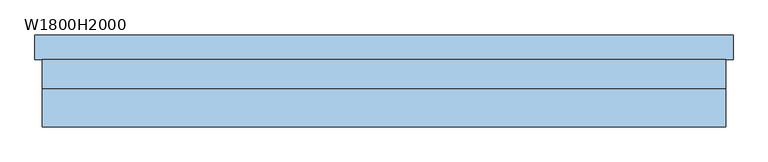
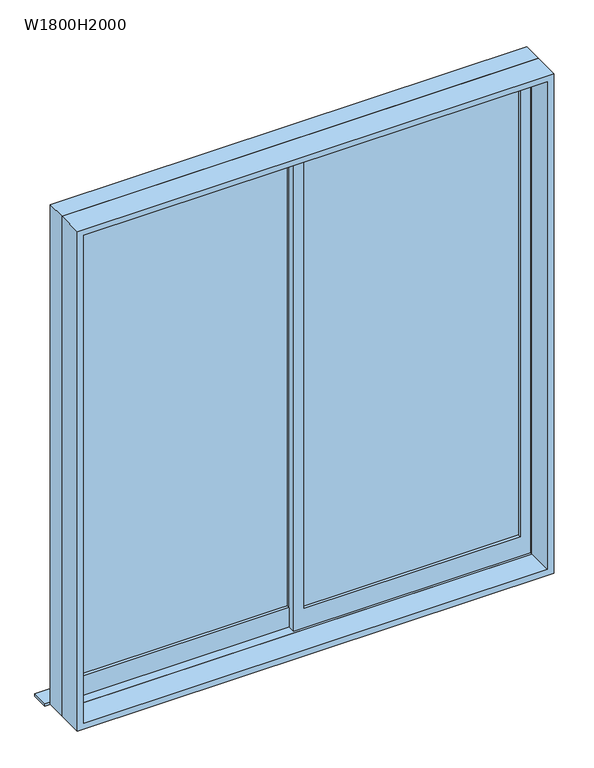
"""IFC4 building model written with IfcOpenShell, lengths in millimetres: window geometry, 引違い掃出窓_2枚 : W1800H2000."""

from ifc_helpers import new_model, si_unit, frame, origin, place, context, project, spatial, polyline, outline, extrude, source, transform, mapped, element, save


def w1800h2000_a859420f(model_context):
    return source(origin(), model_context, "Body", "SweptSolid", [
        extrude(outline(polyline([(-20.0, 12.5), (-860.0, 12.5), (-860.0, 17.5), (-20.0, 17.5), (-20.0, 12.5)])), frame((0.0, 0.0, 80.0), z_axis=(0.0, 0.0, 1.0), x_axis=(1.0, 0.0, 0.0)), (0.0, 0.0, 1.0), 1880.0),
        extrude(outline(polyline([(860.0, -17.5), (20.0, -17.5), (20.0, -12.5), (860.0, -12.5), (860.0, -17.5)])), frame((0.0, 0.0, 80.0), z_axis=(0.0, 0.0, 1.0), x_axis=(1.0, 0.0, 0.0)), (0.0, 0.0, 1.0), 1880.0),
        extrude(outline(polyline([(2000.0, -20.0), (0.0, -20.0), (0.0, 900.0), (2000.0, 900.0), (2000.0, -20.0)]), holes=[polyline([(80.0, 860.0), (80.0, 20.0), (1960.0, 20.0), (1960.0, 860.0), (80.0, 860.0)])]), frame((0.0, -30.0, 0.0), z_axis=(0.0, 1.0, 0.0), x_axis=(0.0, 0.0, 1.0)), (0.0, 0.0, 1.0), 30.0),
        extrude(outline(polyline([(2000.0, -900.0), (0.0, -900.0), (0.0, 20.0), (2000.0, 20.0), (2000.0, -900.0)]), holes=[polyline([(80.0, -20.0), (80.0, -860.0), (1960.0, -860.0), (1960.0, -20.0), (80.0, -20.0)])]), frame((0.0, 0.0, 0.0), z_axis=(0.0, 1.0, 0.0), x_axis=(0.0, 0.0, 1.0)), (0.0, 0.0, 1.0), 30.0),
        extrude(outline(polyline([(945.0, 107.5), (945.0, 40.0), (-945.0, 40.0), (-945.0, 107.5), (945.0, 107.5)])), frame((0.0, 0.0, -25.0), z_axis=(0.0, 0.0, 1.0), x_axis=(1.0, 0.0, 0.0)), (0.0, 0.0, 1.0), 10.0),
        extrude(outline(polyline([(2025.0, 925.0), (2025.0, -925.0), (-25.0, -925.0), (-25.0, 925.0), (2025.0, 925.0)]), holes=[polyline([(0.0, -900.0), (2000.0, -900.0), (2000.0, 900.0), (0.0, 900.0), (0.0, -900.0)])]), frame((0.0, -142.5, 0.0), z_axis=(0.0, 1.0, 0.0), x_axis=(0.0, 0.0, 1.0)), (0.0, 0.0, 1.0), 102.5),
        extrude(outline(polyline([(2025.0, -925.0), (-25.0, -925.0), (-25.0, 925.0), (2025.0, 925.0), (2025.0, -925.0)]), holes=[polyline([(2000.0, 900.0), (0.0, 900.0), (0.0, -900.0), (2000.0, -900.0), (2000.0, 900.0)])]), frame((0.0, -40.0, 0.0), z_axis=(0.0, 1.0, 0.0), x_axis=(0.0, 0.0, 1.0)), (0.0, 0.0, 1.0), 80.0),
    ])


if __name__ == "__main__":
    model = new_model("IFC4")
    model_context = context("Model", 3, world=origin())
    ifc_project = project(units=[si_unit("LENGTHUNIT", "METRE", prefix="MILLI")], contexts=[model_context])
    site = spatial("IfcSite", under=ifc_project)
    building = spatial("IfcBuilding", under=site)
    placement = place(None, origin())
    w1800h2000_shape = w1800h2000_a859420f(model_context)
    element("IfcWindow", 1, ObjectType="引違い掃出窓_2枚 : W1800H2000", at=placement, inside=building, context=model_context, shape_type="MappedRepresentation", body=[
        mapped(w1800h2000_shape, transform((0.0, 0.0, 0.0), x_axis=(1.0, 0.0, 0.0), y_axis=(0.0, 1.0, 0.0), z_axis=(0.0, 0.0, 1.0))),
    ])
    save(model, "model.ifc")
